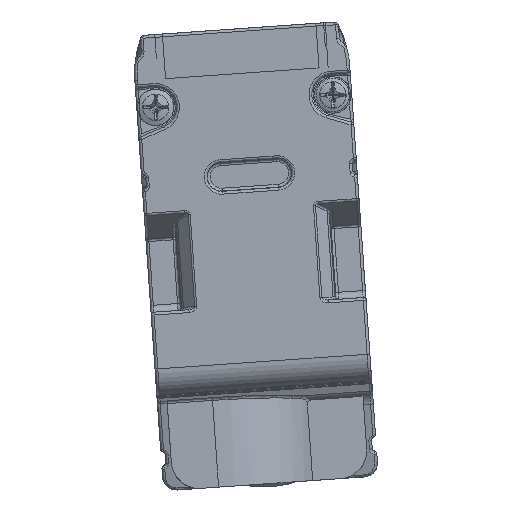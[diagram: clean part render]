
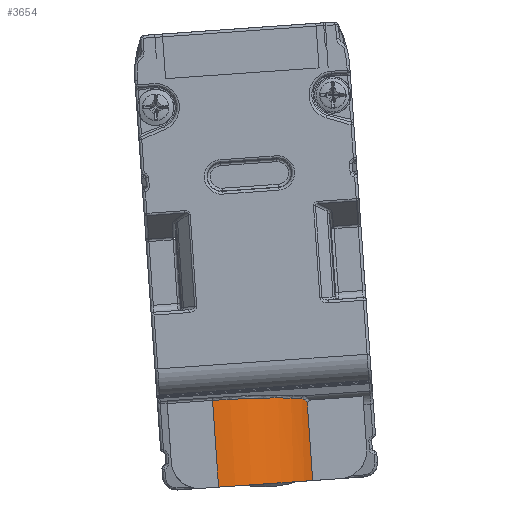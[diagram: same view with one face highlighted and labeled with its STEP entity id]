
A CAD part, front view. The second image highlights one B-rep face of the part: STEP entity #3654.
In plain terms, the highlighted cylindrical face has radius 7.5 mm (diameter 15 mm), a partial arc.
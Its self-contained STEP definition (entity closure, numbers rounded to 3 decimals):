
#282=ELLIPSE('',#24870,7.53,7.5);
#849=CYLINDRICAL_SURFACE('',#24872,7.5);
#2125=FACE_OUTER_BOUND('',#5054,.T.);
#3654=ADVANCED_FACE('',(#2125),#849,.T.);
#5054=EDGE_LOOP('',(#11709,#11710,#11711,#11712,#11713));
#6369=CIRCLE('',#24871,7.5);
#7138=B_SPLINE_CURVE_WITH_KNOTS('',3,(#48658,#48659,#48660,#48661,#48662,
#48663,#48664),.UNSPECIFIED.,.F.,.F.,(4,3,4),(0.,0.485,1.),.UNSPECIFIED.);
#11709=ORIENTED_EDGE('',*,*,#18442,.T.);
#11710=ORIENTED_EDGE('',*,*,#18443,.T.);
#11711=ORIENTED_EDGE('',*,*,#18444,.T.);
#11712=ORIENTED_EDGE('',*,*,#18445,.T.);
#11713=ORIENTED_EDGE('',*,*,#18446,.F.);
#14941=VERTEX_POINT('',#48656);
#14942=VERTEX_POINT('',#48657);
#14943=VERTEX_POINT('',#48665);
#14944=VERTEX_POINT('',#48667);
#14945=VERTEX_POINT('',#48669);
#18442=EDGE_CURVE('',#14941,#14942,#20590,.T.);
#18443=EDGE_CURVE('',#14942,#14943,#7138,.T.);
#18444=EDGE_CURVE('',#14943,#14944,#282,.T.);
#18445=EDGE_CURVE('',#14944,#14945,#20591,.T.);
#18446=EDGE_CURVE('',#14941,#14945,#6369,.T.);
#20590=LINE('',#48655,#22269);
#20591=LINE('',#48668,#22270);
#22269=VECTOR('',#30572,1.);
#22270=VECTOR('',#30575,1.);
#24870=AXIS2_PLACEMENT_3D('',#48666,#30573,#30574);
#24871=AXIS2_PLACEMENT_3D('',#48670,#30576,#30577);
#24872=AXIS2_PLACEMENT_3D('',#48671,#30578,#30579);
#30572=DIRECTION('',(-0.07,0.,0.998));
#30573=DIRECTION('',(0.069,-0.089,-0.994));
#30574=DIRECTION('',(0.006,0.996,-0.089));
#30575=DIRECTION('',(0.07,0.,-0.998));
#30576=DIRECTION('',(0.07,0.,-0.998));
#30577=DIRECTION('',(0.998,0.,0.07));
#30578=DIRECTION('',(0.07,0.,-0.998));
#30579=DIRECTION('',(0.,-1.,0.));
#48655=CARTESIAN_POINT('',(-40.701,-200.597,14.888));
#48656=CARTESIAN_POINT('',(-40.701,-200.597,14.888));
#48657=CARTESIAN_POINT('',(-41.088,-200.597,20.435));
#48658=CARTESIAN_POINT('',(-41.088,-200.597,20.435));
#48659=CARTESIAN_POINT('',(-41.139,-200.686,20.528));
#48660=CARTESIAN_POINT('',(-41.198,-200.793,20.603));
#48661=CARTESIAN_POINT('',(-41.263,-200.905,20.654));
#48662=CARTESIAN_POINT('',(-41.332,-201.024,20.708));
#48663=CARTESIAN_POINT('',(-41.408,-201.152,20.738));
#48664=CARTESIAN_POINT('',(-41.487,-201.278,20.743));
#48665=CARTESIAN_POINT('',(-41.487,-201.278,20.743));
#48666=CARTESIAN_POINT('',(-47.816,-197.318,19.944));
#48667=CARTESIAN_POINT('',(-47.863,-204.818,20.616));
#48668=CARTESIAN_POINT('',(-47.667,-204.818,17.815));
#48669=CARTESIAN_POINT('',(-47.43,-204.818,14.418));
#48670=CARTESIAN_POINT('',(-47.43,-197.318,14.418));
#48671=CARTESIAN_POINT('',(-52.434,-197.318,85.982));
